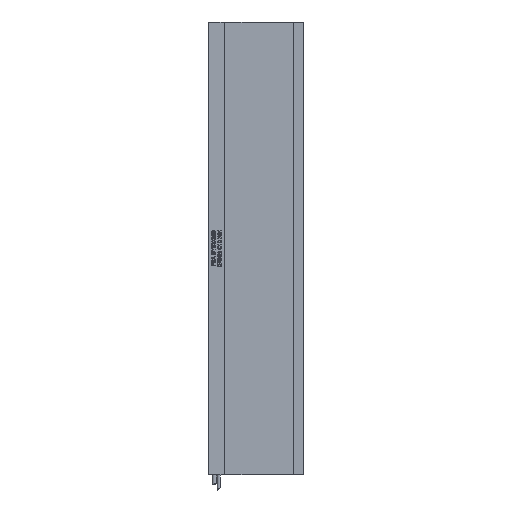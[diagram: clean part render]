
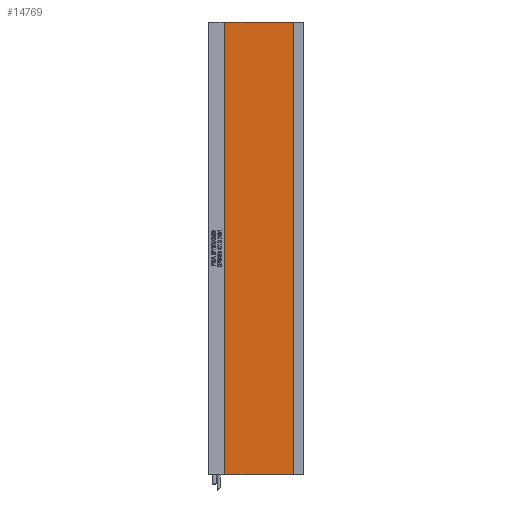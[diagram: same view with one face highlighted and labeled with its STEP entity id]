
A CAD part, left-side view. The second image highlights one B-rep face of the part: STEP entity #14769.
In plain terms, the highlighted planar face has unit normal (-1, 0, 0).
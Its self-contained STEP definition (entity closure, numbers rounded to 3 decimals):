
#2730 = PLANE ( 'NONE',  #35248 ) ;
#2858 = DIRECTION ( 'NONE',  ( -1., 0., 0. ) ) ;
#3080 = CARTESIAN_POINT ( 'NONE',  ( -5.8, 104.7, 0. ) ) ;
#3901 = ORIENTED_EDGE ( 'NONE', *, *, #6092, .T. ) ;
#4058 = CARTESIAN_POINT ( 'NONE',  ( -5.8, 104.7, 601. ) ) ;
#4452 = CARTESIAN_POINT ( 'NONE',  ( -5.8, 14.2, 0. ) ) ;
#4605 = VECTOR ( 'NONE', #34503, 1000. ) ;
#6092 = EDGE_CURVE ( 'NONE', #33901, #6549, #25809, .T. ) ;
#6109 = ORIENTED_EDGE ( 'NONE', *, *, #13453, .F. ) ;
#6549 = VERTEX_POINT ( 'NONE', #3080 ) ;
#6935 = CARTESIAN_POINT ( 'NONE',  ( -5.8, 14.2, 601. ) ) ;
#8482 = EDGE_CURVE ( 'NONE', #28190, #20306, #20993, .T. ) ;
#8945 = ORIENTED_EDGE ( 'NONE', *, *, #8482, .F. ) ;
#12444 = CARTESIAN_POINT ( 'NONE',  ( -5.8, 104.7, 601. ) ) ;
#13453 = EDGE_CURVE ( 'NONE', #20306, #6549, #28916, .T. ) ;
#14740 = CARTESIAN_POINT ( 'NONE',  ( -5.8, 14.2, 0. ) ) ;
#14769 = ADVANCED_FACE ( 'NONE', ( #15420 ), #2730, .T. ) ;
#15420 = FACE_OUTER_BOUND ( 'NONE', #15963, .T. ) ;
#15963 = EDGE_LOOP ( 'NONE', ( #6109, #8945, #35974, #3901 ) ) ;
#16384 = CARTESIAN_POINT ( 'NONE',  ( -5.8, 14.2, 601. ) ) ;
#20306 = VERTEX_POINT ( 'NONE', #4452 ) ;
#20890 = DIRECTION ( 'NONE',  ( 0., 1., 0. ) ) ;
#20993 = LINE ( 'NONE', #6935, #4605 ) ;
#21305 = CARTESIAN_POINT ( 'NONE',  ( -5.8, 14.2, 601. ) ) ;
#24385 = DIRECTION ( 'NONE',  ( 0., 0., 1. ) ) ;
#25809 = LINE ( 'NONE', #12444, #32006 ) ;
#25850 = VECTOR ( 'NONE', #20890, 1000. ) ;
#27220 = EDGE_CURVE ( 'NONE', #28190, #33901, #33926, .T. ) ;
#28190 = VERTEX_POINT ( 'NONE', #16384 ) ;
#28916 = LINE ( 'NONE', #14740, #36913 ) ;
#30760 = DIRECTION ( 'NONE',  ( 0., 0., -1. ) ) ;
#32006 = VECTOR ( 'NONE', #30760, 1000. ) ;
#33033 = DIRECTION ( 'NONE',  ( 0., 1., 0. ) ) ;
#33901 = VERTEX_POINT ( 'NONE', #4058 ) ;
#33926 = LINE ( 'NONE', #36022, #25850 ) ;
#34503 = DIRECTION ( 'NONE',  ( 0., 0., -1. ) ) ;
#35248 = AXIS2_PLACEMENT_3D ( 'NONE', #21305, #2858, #24385 ) ;
#35974 = ORIENTED_EDGE ( 'NONE', *, *, #27220, .T. ) ;
#36022 = CARTESIAN_POINT ( 'NONE',  ( -5.8, 14.2, 601. ) ) ;
#36913 = VECTOR ( 'NONE', #33033, 1000. ) ;
